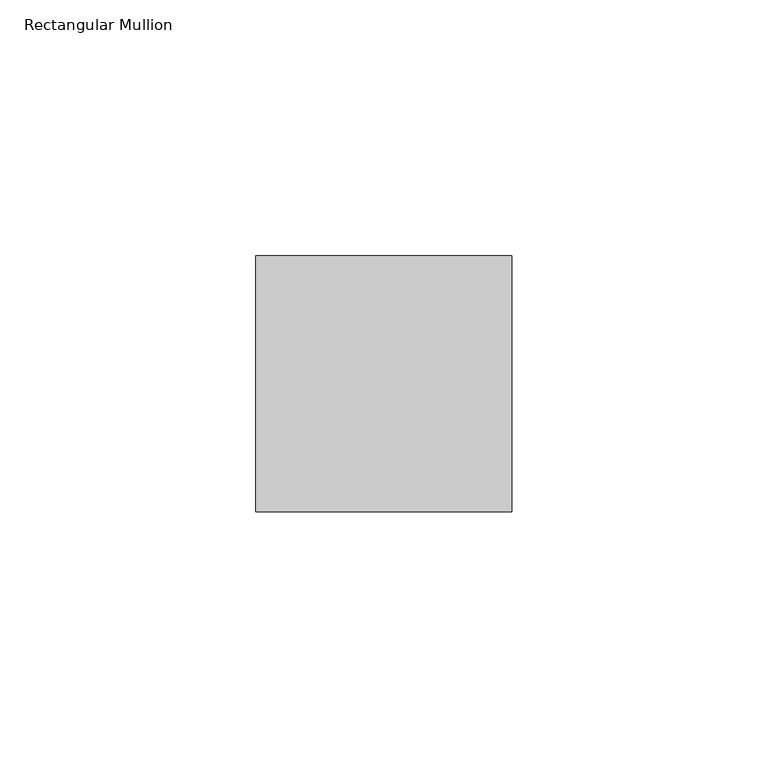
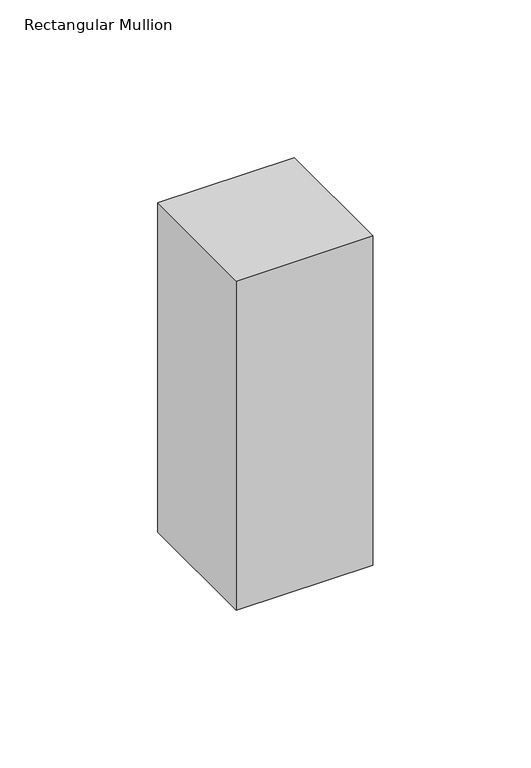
"""IFC4 building model written with IfcOpenShell, lengths in millimetres: member geometry, Rectangular Mullion : RSen_21_CWM_support profile 50x50 - left_gen_duco projects."""

from ifc_helpers import new_model, si_unit, frame, origin, place, context, project, spatial, polyline, outline, extrude, source, transform, mapped, element, save


def rectangular_mullion_b3c6ef04(model_context):
    return source(origin(), model_context, "Body", "SweptSolid", [
        extrude(outline(polyline([(0.0, 1.0), (0.0, -49.0), (-50.0, -49.0), (-50.0, 1.0), (0.0, 1.0)])), frame((0.0, 0.0, -127.5), z_axis=(0.0, 0.0, 1.0), x_axis=(1.0, 0.0, 0.0)), (0.0, 0.0, 1.0), 127.5),
    ])


if __name__ == "__main__":
    model = new_model("IFC4")
    model_context = context("Model", 3, world=origin())
    ifc_project = project(units=[si_unit("LENGTHUNIT", "METRE", prefix="MILLI")], contexts=[model_context])
    site = spatial("IfcSite", under=ifc_project)
    building = spatial("IfcBuilding", under=site)
    placement = place(None, origin())
    rectangular_mullion_shape = rectangular_mullion_b3c6ef04(model_context)
    element("IfcMember", 1, ObjectType="Rectangular Mullion : RSen_21_CWM_support profile 50x50 - left_gen_duco projects", at=placement, inside=building, context=model_context, shape_type="MappedRepresentation", body=[
        mapped(rectangular_mullion_shape, transform((0.0, 0.0, 0.0), x_axis=(1.0, 0.0, 0.0), y_axis=(0.0, 1.0, 0.0), z_axis=(0.0, 0.0, 1.0))),
    ])
    save(model, "model.ifc")
